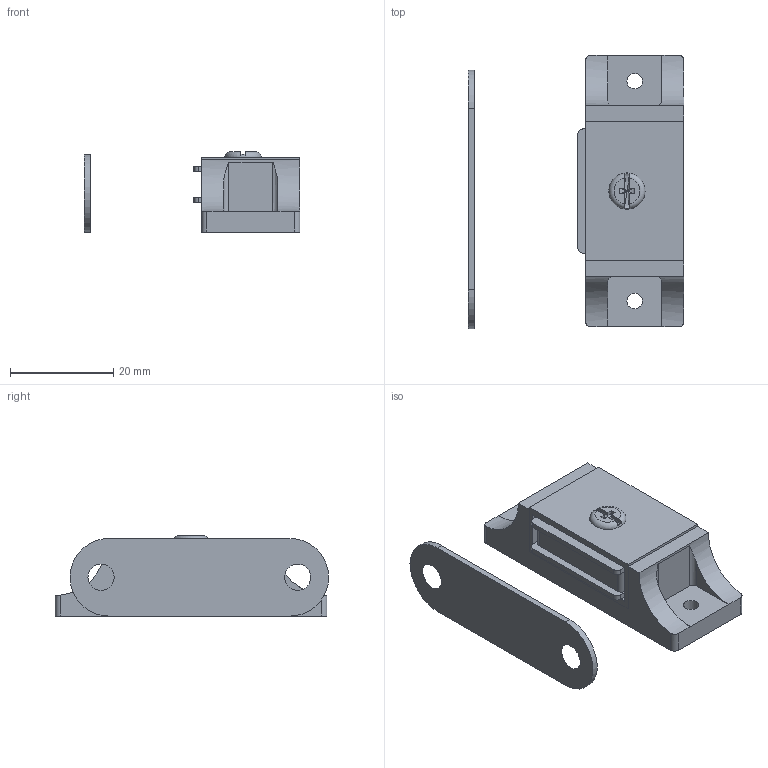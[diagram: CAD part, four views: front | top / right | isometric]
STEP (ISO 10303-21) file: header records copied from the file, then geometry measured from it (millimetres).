
FILE_DESCRIPTION(/* description */ (''),/* implementation_level */ '2;1');
FILE_NAME(/* name */ '\\NAS\db20\B-MPVC43\DR_B-MPVC43.stp',/* time_stamp */ '2018-03-02T18:19:52+09:00',/* author */ ('user'),/* organization */ (''),/* preprocessor_version */ 'ST-DEVELOPER v15.6',/* originating_system */ 'Autodesk Inventor 2015',/* authorisation */ '');
FILE_SCHEMA (('AUTOMOTIVE_DESIGN { 1 0 10303 214 3 1 1 }'));
Length unit declared in the file: millimetre
Products named in the file (5): DR_B-MPVC43-1; DR_B-MPVC43-2; DR_B-MPVC43_P; DR_B-MPVC43아대; DR_B-MPVC43
Bounding box: 41.7 x 52.85 x 15.5 mm (x, y, z)
Volume: 9453.8 mm3; surface area: 11773.4 mm2
Topology: 8 solids, 8 shells, 261 faces, 625 edges, 378 vertices
Faces by surface type: plane 173, cylinder 73, bspline 12, cone 2, torus 1
Full cylindrical faces by diameter (mm): 3 x4, 3.5 x4, 5 x1, 7 x1
Entity records: 7805 total; most frequent: CARTESIAN_POINT 1735, DIRECTION 1241, ORIENTED_EDGE 1192, EDGE_CURVE 596, AXIS2_PLACEMENT_3D 426, LINE 389, VECTOR 389, VERTEX_POINT 374
